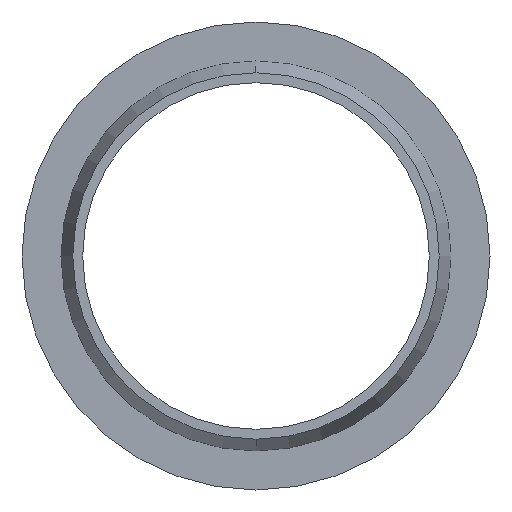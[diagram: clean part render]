
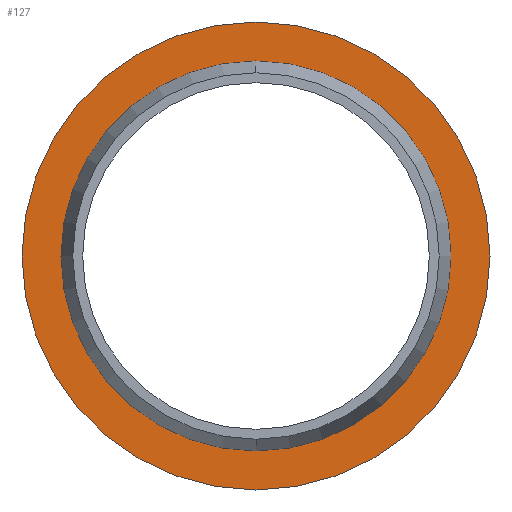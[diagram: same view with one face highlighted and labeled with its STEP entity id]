
A CAD part, left-side view. The second image highlights one B-rep face of the part: STEP entity #127.
In plain terms, the highlighted planar face has unit normal (-1, 0, 0).
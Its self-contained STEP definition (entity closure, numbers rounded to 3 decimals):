
#25 = CARTESIAN_POINT ( 'NONE',  ( 2.5, 0., 18.9 ) ) ;
#50 = AXIS2_PLACEMENT_3D ( 'NONE', #73, #72, #71 ) ;
#71 = DIRECTION ( 'NONE',  ( 0., 0., 1. ) ) ;
#72 = DIRECTION ( 'NONE',  ( -1., 0., 0. ) ) ;
#73 = CARTESIAN_POINT ( 'NONE',  ( 2.5, 0., 0. ) ) ;
#84 = CIRCLE ( 'NONE', #50, 18.9 ) ;
#98 = EDGE_CURVE ( 'NONE', #156, #158, #279, .T. ) ;
#123 = EDGE_LOOP ( 'NONE', ( #136, #132 ) ) ;
#124 = ORIENTED_EDGE ( 'NONE', *, *, #98, .F. ) ;
#125 = ORIENTED_EDGE ( 'NONE', *, *, #131, .F. ) ;
#127 = ADVANCED_FACE ( 'NONE', ( #299, #311 ), #310, .F. ) ;
#131 = EDGE_CURVE ( 'NONE', #158, #156, #274, .T. ) ;
#132 = ORIENTED_EDGE ( 'NONE', *, *, #254, .T. ) ;
#136 = ORIENTED_EDGE ( 'NONE', *, *, #218, .T. ) ;
#139 = EDGE_LOOP ( 'NONE', ( #125, #124 ) ) ;
#156 = VERTEX_POINT ( 'NONE', #369 ) ;
#158 = VERTEX_POINT ( 'NONE', #320 ) ;
#206 = VERTEX_POINT ( 'NONE', #462 ) ;
#218 = EDGE_CURVE ( 'NONE', #237, #206, #488, .T. ) ;
#237 = VERTEX_POINT ( 'NONE', #25 ) ;
#254 = EDGE_CURVE ( 'NONE', #206, #237, #84, .T. ) ;
#270 = DIRECTION ( 'NONE',  ( 0., 0., 1. ) ) ;
#271 = DIRECTION ( 'NONE',  ( -1., 0., 0. ) ) ;
#272 = CARTESIAN_POINT ( 'NONE',  ( 2.5, 0., 0. ) ) ;
#273 = AXIS2_PLACEMENT_3D ( 'NONE', #272, #271, #270 ) ;
#274 = CIRCLE ( 'NONE', #285, 15.75 ) ;
#279 = CIRCLE ( 'NONE', #273, 15.75 ) ;
#282 = DIRECTION ( 'NONE',  ( 0., 0., 1. ) ) ;
#283 = DIRECTION ( 'NONE',  ( -1., 0., 0. ) ) ;
#284 = CARTESIAN_POINT ( 'NONE',  ( 2.5, 0., 0. ) ) ;
#285 = AXIS2_PLACEMENT_3D ( 'NONE', #284, #283, #282 ) ;
#287 = DIRECTION ( 'NONE',  ( 0., 0., -1. ) ) ;
#288 = DIRECTION ( 'NONE',  ( 1., 0., 0. ) ) ;
#289 = AXIS2_PLACEMENT_3D ( 'NONE', #304, #288, #287 ) ;
#299 = FACE_BOUND ( 'NONE', #139, .T. ) ;
#304 = CARTESIAN_POINT ( 'NONE',  ( 2.5, 18.9, 0. ) ) ;
#310 = PLANE ( 'NONE',  #289 ) ;
#311 = FACE_OUTER_BOUND ( 'NONE', #123, .T. ) ;
#320 = CARTESIAN_POINT ( 'NONE',  ( 2.5, 0., -15.75 ) ) ;
#369 = CARTESIAN_POINT ( 'NONE',  ( 2.5, 0., 15.75 ) ) ;
#444 = CARTESIAN_POINT ( 'NONE',  ( 2.5, 0., 0. ) ) ;
#462 = CARTESIAN_POINT ( 'NONE',  ( 2.5, 0., -18.9 ) ) ;
#484 = DIRECTION ( 'NONE',  ( 0., 0., 1. ) ) ;
#485 = DIRECTION ( 'NONE',  ( -1., 0., 0. ) ) ;
#488 = CIRCLE ( 'NONE', #491, 18.9 ) ;
#491 = AXIS2_PLACEMENT_3D ( 'NONE', #444, #485, #484 ) ;
